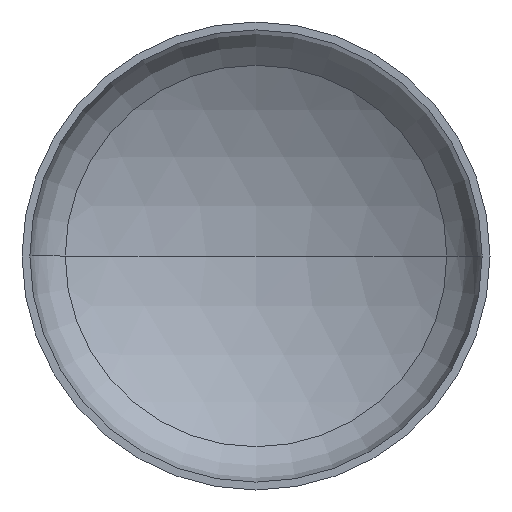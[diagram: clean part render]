
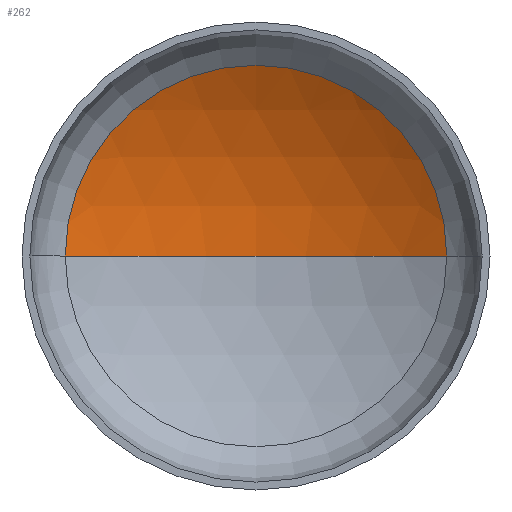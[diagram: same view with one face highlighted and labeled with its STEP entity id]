
A CAD part, front view. The second image highlights one B-rep face of the part: STEP entity #262.
In plain terms, the highlighted spherical face has radius 3040 mm.
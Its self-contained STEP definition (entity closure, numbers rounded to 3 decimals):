
#5 = AXIS2_PLACEMENT_3D ( 'NONE', #147, #378, #272 ) ;
#12 = EDGE_LOOP ( 'NONE', ( #314, #59, #25 ) ) ;
#19 = VERTEX_POINT ( 'NONE', #291 ) ;
#25 = ORIENTED_EDGE ( 'NONE', *, *, #100, .T. ) ;
#26 = AXIS2_PLACEMENT_3D ( 'NONE', #51, #240, #38 ) ;
#38 = DIRECTION ( 'NONE',  ( -1., 0., 0. ) ) ;
#47 = AXIS2_PLACEMENT_3D ( 'NONE', #271, #205, #173 ) ;
#49 = VERTEX_POINT ( 'NONE', #374 ) ;
#50 = AXIS2_PLACEMENT_3D ( 'NONE', #194, #196, #180 ) ;
#51 = CARTESIAN_POINT ( 'NONE',  ( 0., -1992.35, 0. ) ) ;
#59 = ORIENTED_EDGE ( 'NONE', *, *, #104, .T. ) ;
#61 = VERTEX_POINT ( 'NONE', #290 ) ;
#100 = EDGE_CURVE ( 'NONE', #49, #61, #221, .T. ) ;
#104 = EDGE_CURVE ( 'NONE', #19, #49, #351, .T. ) ;
#147 = CARTESIAN_POINT ( 'NONE',  ( 0., -1992.35, 0. ) ) ;
#173 = DIRECTION ( 'NONE',  ( -1., 0., 0. ) ) ;
#180 = DIRECTION ( 'NONE',  ( 1., 0., 0. ) ) ;
#194 = CARTESIAN_POINT ( 'NONE',  ( 0., 623.35, 0. ) ) ;
#196 = DIRECTION ( 'NONE',  ( 0., -1., 0. ) ) ;
#205 = DIRECTION ( 'NONE',  ( 0., 0., -1. ) ) ;
#221 = CIRCLE ( 'NONE', #50, 1549.1 ) ;
#240 = DIRECTION ( 'NONE',  ( 0., 0., -1. ) ) ;
#262 = ADVANCED_FACE ( 'NONE', ( #343 ), #330, .F. ) ;
#271 = CARTESIAN_POINT ( 'NONE',  ( 0., -1992.35, 0. ) ) ;
#272 = DIRECTION ( 'NONE',  ( 1., 0., 0. ) ) ;
#290 = CARTESIAN_POINT ( 'NONE',  ( -1549.1, 623.35, 0. ) ) ;
#291 = CARTESIAN_POINT ( 'NONE',  ( 0., 1047.65, 0. ) ) ;
#309 = CIRCLE ( 'NONE', #5, 3040. ) ;
#314 = ORIENTED_EDGE ( 'NONE', *, *, #358, .F. ) ;
#330 = SPHERICAL_SURFACE ( 'NONE', #26, 3040. ) ;
#343 = FACE_OUTER_BOUND ( 'NONE', #12, .T. ) ;
#351 = CIRCLE ( 'NONE', #47, 3040. ) ;
#358 = EDGE_CURVE ( 'NONE', #19, #61, #309, .T. ) ;
#374 = CARTESIAN_POINT ( 'NONE',  ( 1549.1, 623.35, 0. ) ) ;
#378 = DIRECTION ( 'NONE',  ( 0., 0., 1. ) ) ;
